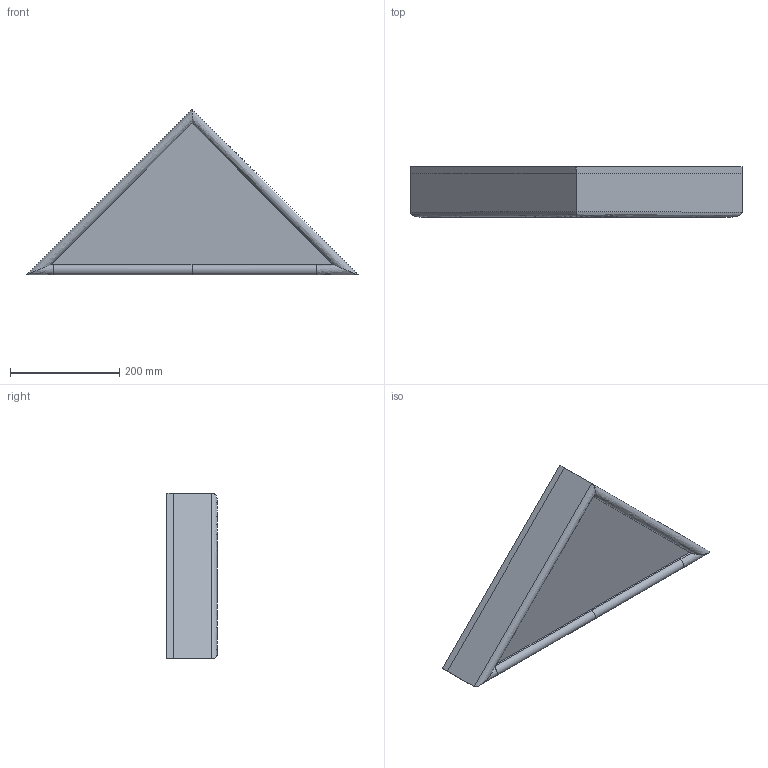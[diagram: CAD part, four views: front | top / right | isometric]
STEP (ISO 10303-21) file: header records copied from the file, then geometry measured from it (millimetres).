
FILE_DESCRIPTION ((), '1');
FILE_NAME ('/Volumes/Data/Drawings/Moi3D/flag display case/Flag Display Case.stp', '2021-05-29T09:10:50', ('Unknown'), ('Unknown'), 'HarmonyWare STEP v2.1.4', 'HarmonyWare Translators', '');
FILE_SCHEMA (('CONFIG_CONTROL_DESIGN'));
Length unit declared in the file: inch
Products named in the file (10): Glass panel; Frame bottom; Frame side; Back panel; L-bracket
Assembly tree (9 placements, depth 2):
  (unnamed)
    Glass panel
    Frame bottom
    Frame side
    Frame side
    Back panel
    L-bracket
    L-bracket
    L-bracket
    L-bracket
Bounding box: 607.42 x 92.08 x 303.71 mm (x, y, z)
Volume: 2392154.2 mm3; surface area: 644277.9 mm2
Topology: 9 solids, 9 shells, 92 faces, 230 edges, 156 vertices
Faces by surface type: bspline 92
Entity records: 6311 total; most frequent: CARTESIAN_POINT 3165, ORIENTED_EDGE 460, EDGE_CURVE 230, B_SPLINE_CURVE_WITH_KNOTS 205, VERTEX_POINT 156, EDGE_LOOP 116, PERSON 98, ORGANIZATION 98
